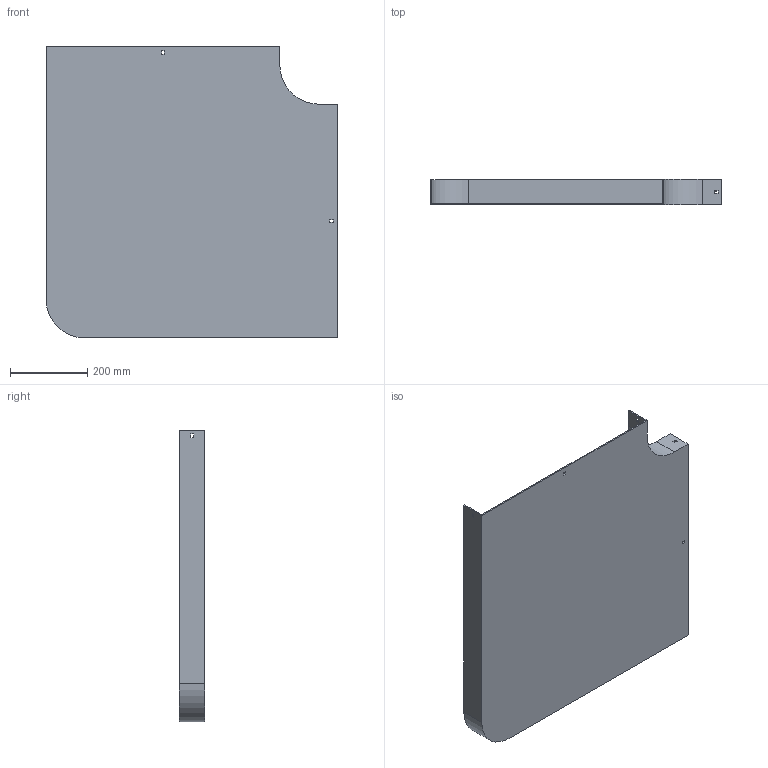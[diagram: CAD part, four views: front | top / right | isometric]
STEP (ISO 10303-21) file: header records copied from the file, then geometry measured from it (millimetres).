
FILE_DESCRIPTION (( 'STEP AP214' ), '1' );
FILE_NAME ('10B1H600.step', '2025-02-21T09:41:22', ( '' ), ( '' ), 'SwSTEP 2.0', 'SolidWorks 2023', '' );
FILE_SCHEMA (( 'AUTOMOTIVE_DESIGN' ));
Length unit declared in the file: millimetre
Products named in the file (1): 10B1H600
Bounding box: 754 x 65.5 x 754 mm (x, y, z)
Volume: 2283375.1 mm3; surface area: 1316602.3 mm2
Topology: 1 solids, 1 shells, 42 faces, 120 edges, 80 vertices
Faces by surface type: plane 38, cylinder 4
Entity records: 1399 total; most frequent: CARTESIAN_POINT 243, ORIENTED_EDGE 240, DIRECTION 214, EDGE_CURVE 120, LINE 112, VECTOR 112, VERTEX_POINT 80, EDGE_LOOP 54
